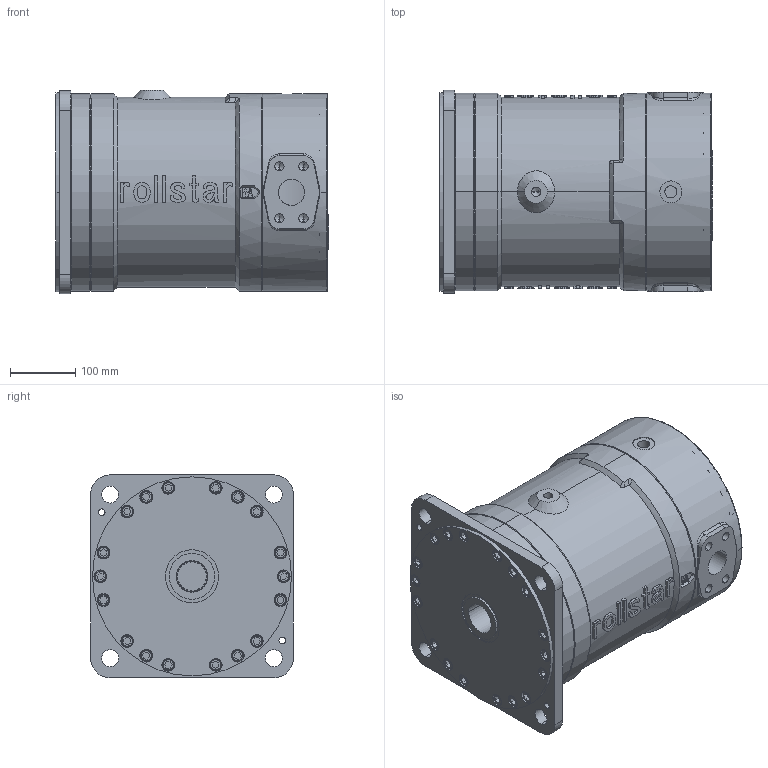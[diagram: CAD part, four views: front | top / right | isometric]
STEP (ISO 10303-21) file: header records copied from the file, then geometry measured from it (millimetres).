
FILE_DESCRIPTION(('Creo Elements/Direct Modeling STEP Export'),'2;1');
FILE_NAME('AM350_500 radial.stp','2017-07-10T15:05:39',(''),(''),'PTC Creo Elements/Direct Modeling STEP processor for AP214 (Solid Model)','PTC Creo Elements/Direct Modeling 19.0C 15-Aug-2015 (C) Parametric Technology GmbH','');
FILE_SCHEMA(('AUTOMOTIVE_DESIGN { 1 0 10303 214 1 1 1 1 }'));
Products named in the file (2): AM350_500
Assembly tree (1 placements, depth 2):
  AM350_500
    AM350_500
Bounding box: 418 x 310 x 311 mm (x, y, z)
Volume: 28713049.4 mm3; surface area: 713647.8 mm2
Topology: 1 solids, 1 shells, 1716 faces, 4503 edges, 2943 vertices
Faces by surface type: plane 1151, cylinder 353, cone 118, extrusion 50, bspline 36, torus 8
Entity records: 78006 total; most frequent: CARTESIAN_POINT 30068, ORIENTED_EDGE 8970, DIRECTION 7883, EDGE_CURVE 4485, VECTOR 3055, LINE 3005, VERTEX_POINT 2943, AXIS2_PLACEMENT_3D 2414
